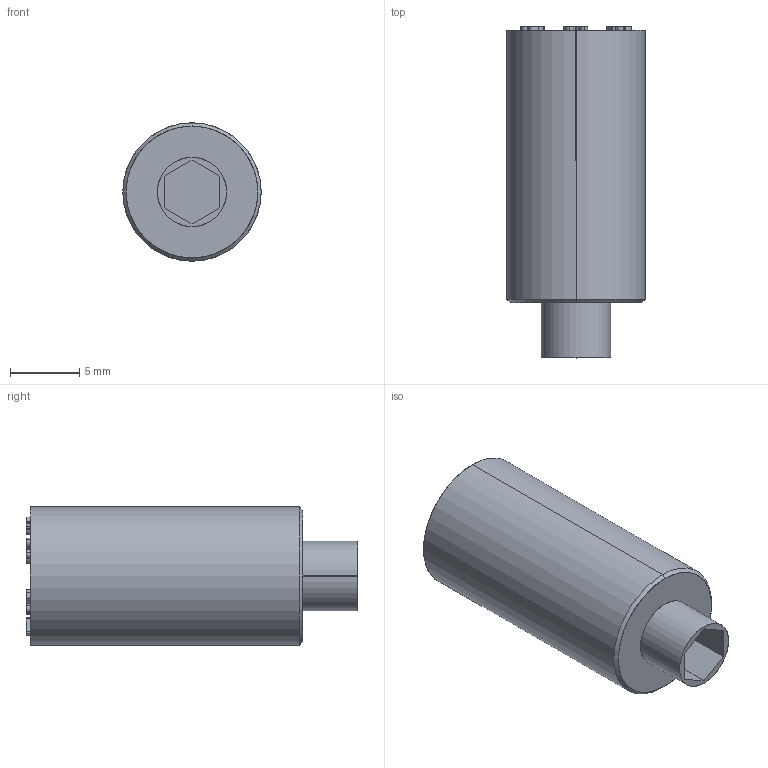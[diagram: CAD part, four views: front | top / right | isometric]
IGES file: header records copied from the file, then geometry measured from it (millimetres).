
Start section: SolidWorks IGES file using analytic representation for surfaces
Global section: file name: C:\temp\GO\Files\DFRY10-27.igs; native system: SolidWorks 2023; preprocessor: SolidWorks 2023; author: andrew.sweeney; date: 260123.162133; units: millimetre
Bounding box: 10 x 24 x 10 mm (x, y, z)
Surface area: 1256.7 mm2 (no closed solid volume)
Topology: 0 solids, 0 shells, 197 faces, 2664 edges, 2664 vertices
Faces by surface type: bspline 183, revolution 14
